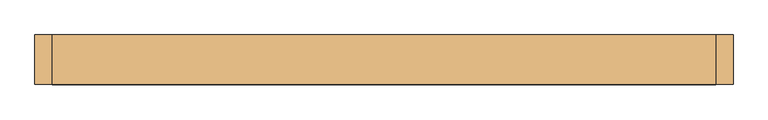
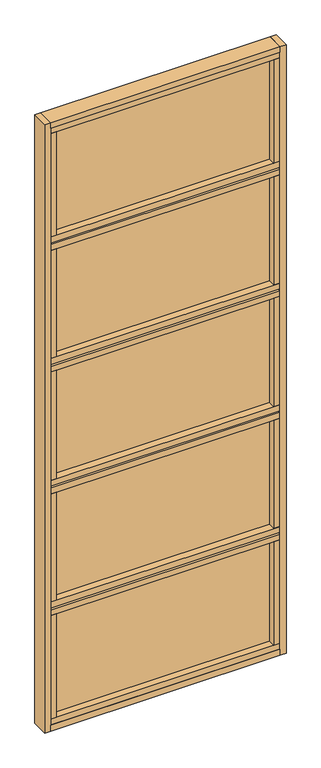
"""IFC4 building model written with IfcOpenShell, lengths in millimetres: door geometry, Mobiliário_Mobiliário de Escritório_Painel de Vidro Simples - AU5T (Completo)_Marelli : AU5T - Temperado."""

from ifc_helpers import new_model, si_unit, frame, origin, origin_with_axes, place, context, project, spatial, polyline, outline, extrude, source, transform, mapped, element, save


def door_343ec494(model_context):
    return source(origin(), model_context, "Body", "SweptSolid", [
        extrude(outline(polyline([(570.0, 42.5), (570.0, -42.5), (-570.0, -42.5), (-570.0, 42.5), (570.0, 42.5)])), origin_with_axes(), (0.0, 0.0, 1.0), 30.0),
        extrude(outline(polyline([(570.0, 21.5), (570.0, -21.5), (-570.0, -21.5), (-570.0, 21.5), (570.0, 21.5)])), frame((0.0, 0.0, 2555.0), z_axis=(0.0, 0.0, 1.0), x_axis=(1.0, 0.0, 0.0)), (0.0, 0.0, 1.0), 10.0),
        extrude(outline(polyline([(570.0, 39.5), (570.0, -39.5), (-570.0, -39.5), (-570.0, 39.5), (570.0, 39.5)])), frame((0.0, 0.0, 2565.0), z_axis=(0.0, 0.0, 1.0), x_axis=(1.0, 0.0, 0.0)), (0.0, 0.0, 1.0), 30.0),
        extrude(outline(polyline([(-540.0, 39.5), (-540.0, -39.5), (-570.0, -39.5), (-570.0, 39.5), (-540.0, 39.5)])), frame((0.0, 0.0, 2595.0), z_axis=(0.0, 0.0, 1.0), x_axis=(1.0, 0.0, 0.0)), (0.0, 0.0, 1.0), 545.0),
        extrude(outline(polyline([(540.0, 39.5), (570.0, 39.5), (570.0, -39.5), (540.0, -39.5), (540.0, 39.5)])), frame((0.0, 0.0, 2595.0), z_axis=(0.0, 0.0, 1.0), x_axis=(1.0, 0.0, 0.0)), (0.0, 0.0, 1.0), 545.0),
        extrude(outline(polyline([(540.0, 3.0), (540.0, -3.0), (-540.0, -3.0), (-540.0, 3.0), (540.0, 3.0)])), frame((0.0, 0.0, 2595.0), z_axis=(0.0, 0.0, 1.0), x_axis=(1.0, 0.0, 0.0)), (0.0, 0.0, 1.0), 545.0),
        extrude(outline(polyline([(570.0, 39.5), (570.0, -39.5), (-570.0, -39.5), (-570.0, 39.5), (570.0, 39.5)])), frame((0.0, 0.0, 2525.0), z_axis=(0.0, 0.0, 1.0), x_axis=(1.0, 0.0, 0.0)), (0.0, 0.0, 1.0), 30.0),
        extrude(outline(polyline([(570.0, 39.5), (570.0, -39.5), (-570.0, -39.5), (-570.0, 39.5), (570.0, 39.5)])), frame((0.0, 0.0, 1925.0), z_axis=(0.0, 0.0, 1.0), x_axis=(1.0, 0.0, 0.0)), (0.0, 0.0, 1.0), 30.0),
        extrude(outline(polyline([(570.0, 21.5), (570.0, -21.5), (-570.0, -21.5), (-570.0, 21.5), (570.0, 21.5)])), frame((0.0, 0.0, 1915.0), z_axis=(0.0, 0.0, 1.0), x_axis=(1.0, 0.0, 0.0)), (0.0, 0.0, 1.0), 10.0),
        extrude(outline(polyline([(570.0, 21.5), (570.0, -21.5), (-570.0, -21.5), (-570.0, 21.5), (570.0, 21.5)])), frame((0.0, 0.0, 1275.0), z_axis=(0.0, 0.0, 1.0), x_axis=(1.0, 0.0, 0.0)), (0.0, 0.0, 1.0), 10.0),
        extrude(outline(polyline([(570.0, 21.5), (570.0, -21.5), (-570.0, -21.5), (-570.0, 21.5), (570.0, 21.5)])), frame((0.0, 0.0, 635.0), z_axis=(0.0, 0.0, 1.0), x_axis=(1.0, 0.0, 0.0)), (0.0, 0.0, 1.0), 10.0),
        extrude(outline(polyline([(570.0, 39.5), (570.0, -39.5), (-570.0, -39.5), (-570.0, 39.5), (570.0, 39.5)])), frame((0.0, 0.0, 1285.0), z_axis=(0.0, 0.0, 1.0), x_axis=(1.0, 0.0, 0.0)), (0.0, 0.0, 1.0), 30.0),
        extrude(outline(polyline([(-540.0, 39.5), (-540.0, -39.5), (-570.0, -39.5), (-570.0, 39.5), (-540.0, 39.5)])), frame((0.0, 0.0, 1315.0), z_axis=(0.0, 0.0, 1.0), x_axis=(1.0, 0.0, 0.0)), (0.0, 0.0, 1.0), 570.0),
        extrude(outline(polyline([(540.0, 39.5), (570.0, 39.5), (570.0, -39.5), (540.0, -39.5), (540.0, 39.5)])), frame((0.0, 0.0, 1315.0), z_axis=(0.0, 0.0, 1.0), x_axis=(1.0, 0.0, 0.0)), (0.0, 0.0, 1.0), 570.0),
        extrude(outline(polyline([(570.0, 39.5), (570.0, -39.5), (-570.0, -39.5), (-570.0, 39.5), (570.0, 39.5)])), frame((0.0, 0.0, 1885.0), z_axis=(0.0, 0.0, 1.0), x_axis=(1.0, 0.0, 0.0)), (0.0, 0.0, 1.0), 30.0),
        extrude(outline(polyline([(570.0, 39.5), (570.0, -39.5), (-570.0, -39.5), (-570.0, 39.5), (570.0, 39.5)])), frame((0.0, 0.0, 1245.0), z_axis=(0.0, 0.0, 1.0), x_axis=(1.0, 0.0, 0.0)), (0.0, 0.0, 1.0), 30.0),
        extrude(outline(polyline([(570.0, 39.5), (570.0, -39.5), (-570.0, -39.5), (-570.0, 39.5), (570.0, 39.5)])), frame((0.0, 0.0, 645.0), z_axis=(0.0, 0.0, 1.0), x_axis=(1.0, 0.0, 0.0)), (0.0, 0.0, 1.0), 30.0),
        extrude(outline(polyline([(-540.0, 39.5), (-540.0, -39.5), (-570.0, -39.5), (-570.0, 39.5), (-540.0, 39.5)])), frame((0.0, 0.0, 60.0), z_axis=(0.0, 0.0, 1.0), x_axis=(1.0, 0.0, 0.0)), (0.0, 0.0, 1.0), 545.0),
        extrude(outline(polyline([(540.0, 39.5), (570.0, 39.5), (570.0, -39.5), (540.0, -39.5), (540.0, 39.5)])), frame((0.0, 0.0, 60.0), z_axis=(0.0, 0.0, 1.0), x_axis=(1.0, 0.0, 0.0)), (0.0, 0.0, 1.0), 545.0),
        extrude(outline(polyline([(570.0, 39.5), (570.0, -39.5), (-570.0, -39.5), (-570.0, 39.5), (570.0, 39.5)])), frame((0.0, 0.0, 605.0), z_axis=(0.0, 0.0, 1.0), x_axis=(1.0, 0.0, 0.0)), (0.0, 0.0, 1.0), 30.0),
        extrude(outline(polyline([(570.0, 39.5), (570.0, -39.5), (-570.0, -39.5), (-570.0, 39.5), (570.0, 39.5)])), frame((0.0, 0.0, 30.0), z_axis=(0.0, 0.0, 1.0), x_axis=(1.0, 0.0, 0.0)), (0.0, 0.0, 1.0), 30.0),
        extrude(outline(polyline([(540.0, 3.0), (540.0, -3.0), (-540.0, -3.0), (-540.0, 3.0), (540.0, 3.0)])), frame((0.0, 0.0, 1315.0), z_axis=(0.0, 0.0, 1.0), x_axis=(1.0, 0.0, 0.0)), (0.0, 0.0, 1.0), 570.0),
        extrude(outline(polyline([(540.0, 3.0), (540.0, -3.0), (-540.0, -3.0), (-540.0, 3.0), (540.0, 3.0)])), frame((0.0, 0.0, 60.0), z_axis=(0.0, 0.0, 1.0), x_axis=(1.0, 0.0, 0.0)), (0.0, 0.0, 1.0), 545.0),
        extrude(outline(polyline([(570.0, 42.5), (570.0, -42.5), (-570.0, -42.5), (-570.0, 42.5), (570.0, 42.5)])), frame((0.0, 0.0, 3170.0), z_axis=(0.0, 0.0, 1.0), x_axis=(1.0, 0.0, 0.0)), (0.0, 0.0, 1.0), 30.0),
        extrude(outline(polyline([(570.0, 39.5), (570.0, -39.5), (-570.0, -39.5), (-570.0, 39.5), (570.0, 39.5)])), frame((0.0, 0.0, 3140.0), z_axis=(0.0, 0.0, 1.0), x_axis=(1.0, 0.0, 0.0)), (0.0, 0.0, 1.0), 30.0),
        extrude(outline(polyline([(-600.0, -42.5), (-600.0, 42.5), (-570.0, 42.5), (-570.0, -42.5), (-600.0, -42.5)])), origin_with_axes(), (0.0, 0.0, 1.0), 3200.0),
        extrude(outline(polyline([(600.0, -42.5), (570.0, -42.5), (570.0, 42.5), (600.0, 42.5), (600.0, -42.5)])), origin_with_axes(), (0.0, 0.0, 1.0), 3200.0),
        extrude(outline(polyline([(-540.0, 39.5), (-540.0, -39.5), (-570.0, -39.5), (-570.0, 39.5), (-540.0, 39.5)])), frame((0.0, 0.0, 1955.0), z_axis=(0.0, 0.0, 1.0), x_axis=(1.0, 0.0, 0.0)), (0.0, 0.0, 1.0), 570.0),
        extrude(outline(polyline([(540.0, 39.5), (570.0, 39.5), (570.0, -39.5), (540.0, -39.5), (540.0, 39.5)])), frame((0.0, 0.0, 1955.0), z_axis=(0.0, 0.0, 1.0), x_axis=(1.0, 0.0, 0.0)), (0.0, 0.0, 1.0), 570.0),
        extrude(outline(polyline([(540.0, 3.0), (540.0, -3.0), (-540.0, -3.0), (-540.0, 3.0), (540.0, 3.0)])), frame((0.0, 0.0, 1955.0), z_axis=(0.0, 0.0, 1.0), x_axis=(1.0, 0.0, 0.0)), (0.0, 0.0, 1.0), 570.0),
        extrude(outline(polyline([(-540.0, 39.5), (-540.0, -39.5), (-570.0, -39.5), (-570.0, 39.5), (-540.0, 39.5)])), frame((0.0, 0.0, 675.0), z_axis=(0.0, 0.0, 1.0), x_axis=(1.0, 0.0, 0.0)), (0.0, 0.0, 1.0), 570.0),
        extrude(outline(polyline([(540.0, 39.5), (570.0, 39.5), (570.0, -39.5), (540.0, -39.5), (540.0, 39.5)])), frame((0.0, 0.0, 675.0), z_axis=(0.0, 0.0, 1.0), x_axis=(1.0, 0.0, 0.0)), (0.0, 0.0, 1.0), 570.0),
        extrude(outline(polyline([(540.0, 3.0), (540.0, -3.0), (-540.0, -3.0), (-540.0, 3.0), (540.0, 3.0)])), frame((0.0, 0.0, 675.0), z_axis=(0.0, 0.0, 1.0), x_axis=(1.0, 0.0, 0.0)), (0.0, 0.0, 1.0), 570.0),
    ])


if __name__ == "__main__":
    model = new_model("IFC4")
    model_context = context("Model", 3, world=origin())
    ifc_project = project(units=[si_unit("LENGTHUNIT", "METRE", prefix="MILLI")], contexts=[model_context])
    site = spatial("IfcSite", under=ifc_project)
    building = spatial("IfcBuilding", under=site)
    placement = place(None, origin())
    door_shape = door_343ec494(model_context)
    element("IfcDoor", 1, ObjectType="Mobiliário_Mobiliário de Escritório_Painel de Vidro Simples - AU5T (Completo)_Marelli : AU5T - Temperado", at=placement, inside=building, context=model_context, shape_type="MappedRepresentation", body=[
        mapped(door_shape, transform((0.0, 0.0, 0.0), x_axis=(1.0, 0.0, 0.0), y_axis=(0.0, 1.0, 0.0), z_axis=(0.0, 0.0, 1.0))),
    ])
    save(model, "model.ifc")
